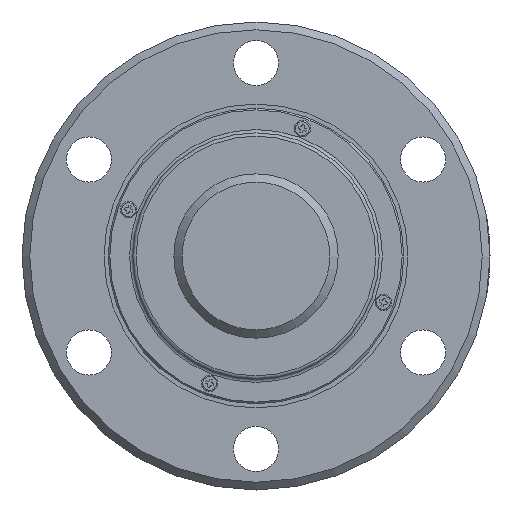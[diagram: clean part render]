
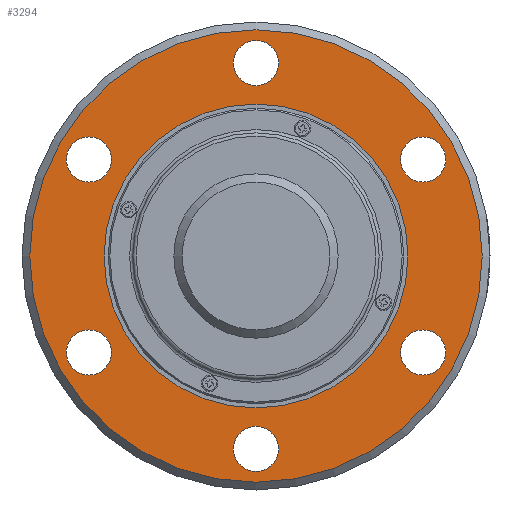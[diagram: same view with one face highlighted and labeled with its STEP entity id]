
A CAD part, left-side view. The second image highlights one B-rep face of the part: STEP entity #3294.
In plain terms, the highlighted planar face has unit normal (-1, 0, 0).
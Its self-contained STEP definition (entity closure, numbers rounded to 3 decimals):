
#699=PLANE('',#3556);
#872=ORIENTED_EDGE('',*,*,#1760,.T.);
#873=ORIENTED_EDGE('',*,*,#1761,.T.);
#874=ORIENTED_EDGE('',*,*,#1762,.T.);
#875=ORIENTED_EDGE('',*,*,#1763,.T.);
#876=ORIENTED_EDGE('',*,*,#1764,.T.);
#877=ORIENTED_EDGE('',*,*,#1765,.T.);
#878=ORIENTED_EDGE('',*,*,#1766,.T.);
#879=ORIENTED_EDGE('',*,*,#1759,.F.);
#1759=EDGE_CURVE('',#2214,#2214,#2539,.T.);
#1760=EDGE_CURVE('',#2215,#2215,#2540,.T.);
#1761=EDGE_CURVE('',#2216,#2216,#2541,.T.);
#1762=EDGE_CURVE('',#2217,#2217,#2542,.T.);
#1763=EDGE_CURVE('',#2218,#2218,#2543,.T.);
#1764=EDGE_CURVE('',#2219,#2219,#2544,.T.);
#1765=EDGE_CURVE('',#2220,#2220,#2545,.T.);
#1766=EDGE_CURVE('',#2221,#2221,#2546,.T.);
#2214=VERTEX_POINT('',#4944);
#2215=VERTEX_POINT('',#4947);
#2216=VERTEX_POINT('',#4949);
#2217=VERTEX_POINT('',#4951);
#2218=VERTEX_POINT('',#4953);
#2219=VERTEX_POINT('',#4955);
#2220=VERTEX_POINT('',#4957);
#2221=VERTEX_POINT('',#4959);
#2539=CIRCLE('',#3555,27.55);
#2540=CIRCLE('',#3557,18.5);
#2541=CIRCLE('',#3558,2.75);
#2542=CIRCLE('',#3559,2.75);
#2543=CIRCLE('',#3560,2.75);
#2544=CIRCLE('',#3561,2.75);
#2545=CIRCLE('',#3562,2.75);
#2546=CIRCLE('',#3563,2.75);
#2697=EDGE_LOOP('',(#872));
#2698=EDGE_LOOP('',(#873));
#2699=EDGE_LOOP('',(#874));
#2700=EDGE_LOOP('',(#875));
#2701=EDGE_LOOP('',(#876));
#2702=EDGE_LOOP('',(#877));
#2703=EDGE_LOOP('',(#878));
#2704=EDGE_LOOP('',(#879));
#2983=FACE_BOUND('',#2697,.T.);
#2984=FACE_BOUND('',#2698,.T.);
#2985=FACE_BOUND('',#2699,.T.);
#2986=FACE_BOUND('',#2700,.T.);
#2987=FACE_BOUND('',#2701,.T.);
#2988=FACE_BOUND('',#2702,.T.);
#2989=FACE_BOUND('',#2703,.T.);
#2990=FACE_BOUND('',#2704,.T.);
#3294=ADVANCED_FACE('',(#2983,#2984,#2985,#2986,#2987,#2988,#2989,#2990),
#699,.T.);
#3555=AXIS2_PLACEMENT_3D('',#4943,#3951,#3952);
#3556=AXIS2_PLACEMENT_3D('',#4945,#3953,#3954);
#3557=AXIS2_PLACEMENT_3D('',#4946,#3955,#3956);
#3558=AXIS2_PLACEMENT_3D('',#4948,#3957,#3958);
#3559=AXIS2_PLACEMENT_3D('',#4950,#3959,#3960);
#3560=AXIS2_PLACEMENT_3D('',#4952,#3961,#3962);
#3561=AXIS2_PLACEMENT_3D('',#4954,#3963,#3964);
#3562=AXIS2_PLACEMENT_3D('',#4956,#3965,#3966);
#3563=AXIS2_PLACEMENT_3D('',#4958,#3967,#3968);
#3951=DIRECTION('',(1.,0.,0.));
#3952=DIRECTION('',(0.,0.,-1.));
#3953=DIRECTION('',(-1.,0.,0.));
#3954=DIRECTION('',(0.,0.,1.));
#3955=DIRECTION('',(1.,0.,0.));
#3956=DIRECTION('',(0.,0.,-1.));
#3957=DIRECTION('',(1.,0.,0.));
#3958=DIRECTION('',(0.,0.,-1.));
#3959=DIRECTION('',(1.,0.,0.));
#3960=DIRECTION('',(0.,0.,-1.));
#3961=DIRECTION('',(1.,0.,0.));
#3962=DIRECTION('',(0.,0.,-1.));
#3963=DIRECTION('',(1.,0.,0.));
#3964=DIRECTION('',(0.,0.,-1.));
#3965=DIRECTION('',(1.,0.,0.));
#3966=DIRECTION('',(0.,0.,-1.));
#3967=DIRECTION('',(1.,0.,0.));
#3968=DIRECTION('',(0.,0.,-1.));
#4943=CARTESIAN_POINT('',(6.,0.,0.));
#4944=CARTESIAN_POINT('',(6.,0.,-27.55));
#4945=CARTESIAN_POINT('',(6.,27.55,0.));
#4946=CARTESIAN_POINT('',(6.,0.,0.));
#4947=CARTESIAN_POINT('',(6.,0.,-18.5));
#4948=CARTESIAN_POINT('',(6.,0.,23.5));
#4949=CARTESIAN_POINT('',(6.,0.,20.75));
#4950=CARTESIAN_POINT('',(6.,-20.352,11.75));
#4951=CARTESIAN_POINT('',(6.,-20.352,9.));
#4952=CARTESIAN_POINT('',(6.,-20.352,-11.75));
#4953=CARTESIAN_POINT('',(6.,-20.352,-14.5));
#4954=CARTESIAN_POINT('',(6.,0.,-23.5));
#4955=CARTESIAN_POINT('',(6.,0.,-26.25));
#4956=CARTESIAN_POINT('',(6.,20.352,-11.75));
#4957=CARTESIAN_POINT('',(6.,20.352,-14.5));
#4958=CARTESIAN_POINT('',(6.,20.352,11.75));
#4959=CARTESIAN_POINT('',(6.,20.352,9.));
